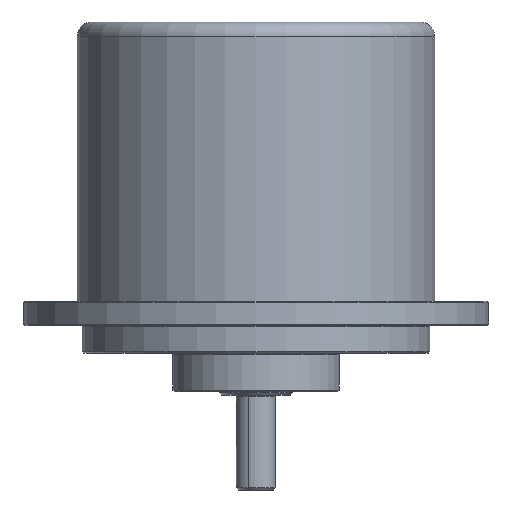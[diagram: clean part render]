
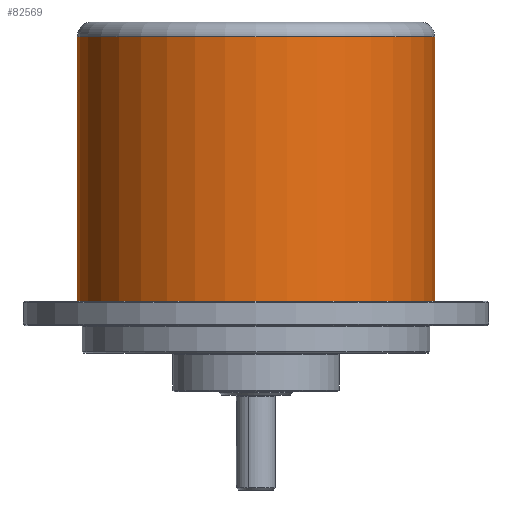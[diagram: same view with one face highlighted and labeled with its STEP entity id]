
A CAD part, front view. The second image highlights one B-rep face of the part: STEP entity #82569.
In plain terms, the highlighted cylindrical face has radius 36.5 mm (diameter 73 mm), a partial arc.
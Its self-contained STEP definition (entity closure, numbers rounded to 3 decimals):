
#682 = VERTEX_POINT ( 'NONE', #74841 ) ;
#802 = VERTEX_POINT ( 'NONE', #2829 ) ;
#2829 = CARTESIAN_POINT ( 'NONE',  ( 36.5, 0., -49.2 ) ) ;
#8440 = ORIENTED_EDGE ( 'NONE', *, *, #8481, .T. ) ;
#8481 = EDGE_CURVE ( 'NONE', #802, #37140, #66348, .T. ) ;
#9431 = CIRCLE ( 'NONE', #24581, 36.5 ) ;
#9968 = AXIS2_PLACEMENT_3D ( 'NONE', #77101, #24926, #77519 ) ;
#11456 = EDGE_CURVE ( 'NONE', #37140, #54189, #79808, .T. ) ;
#12710 = DIRECTION ( 'NONE',  ( 0., 0., 1. ) ) ;
#16994 = CARTESIAN_POINT ( 'NONE',  ( 0., 0., 4.8 ) ) ;
#24581 = AXIS2_PLACEMENT_3D ( 'NONE', #16994, #36034, #70074 ) ;
#24926 = DIRECTION ( 'NONE',  ( 0., 0., 1. ) ) ;
#25234 = FACE_OUTER_BOUND ( 'NONE', #34055, .T. ) ;
#27173 = CARTESIAN_POINT ( 'NONE',  ( -36.5, 0., 4.8 ) ) ;
#28040 = CARTESIAN_POINT ( 'NONE',  ( -36.5, 0., 0. ) ) ;
#29111 = DIRECTION ( 'NONE',  ( 0., 0., 1. ) ) ;
#34055 = EDGE_LOOP ( 'NONE', ( #8440, #46883, #77592, #72927 ) ) ;
#34872 = CARTESIAN_POINT ( 'NONE',  ( -36.5, 0., -49.2 ) ) ;
#35854 = EDGE_CURVE ( 'NONE', #802, #682, #75261, .T. ) ;
#36034 = DIRECTION ( 'NONE',  ( 0., 0., 1. ) ) ;
#37140 = VERTEX_POINT ( 'NONE', #34872 ) ;
#41225 = CARTESIAN_POINT ( 'NONE',  ( 36.5, 0., 0. ) ) ;
#45947 = DIRECTION ( 'NONE',  ( 1., 0., 0. ) ) ;
#46092 = VECTOR ( 'NONE', #29111, 1000. ) ;
#46883 = ORIENTED_EDGE ( 'NONE', *, *, #11456, .T. ) ;
#54189 = VERTEX_POINT ( 'NONE', #27173 ) ;
#55645 = EDGE_CURVE ( 'NONE', #682, #54189, #9431, .T. ) ;
#64001 = VECTOR ( 'NONE', #73759, 1000. ) ;
#66206 = CARTESIAN_POINT ( 'NONE',  ( 0., 0., 0. ) ) ;
#66348 = CIRCLE ( 'NONE', #9968, 36.5 ) ;
#70074 = DIRECTION ( 'NONE',  ( 1., 0., 0. ) ) ;
#71431 = AXIS2_PLACEMENT_3D ( 'NONE', #66206, #12710, #45947 ) ;
#72927 = ORIENTED_EDGE ( 'NONE', *, *, #35854, .F. ) ;
#73759 = DIRECTION ( 'NONE',  ( 0., 0., 1. ) ) ;
#74841 = CARTESIAN_POINT ( 'NONE',  ( 36.5, 0., 4.8 ) ) ;
#75261 = LINE ( 'NONE', #41225, #46092 ) ;
#77101 = CARTESIAN_POINT ( 'NONE',  ( 0., 0., -49.2 ) ) ;
#77519 = DIRECTION ( 'NONE',  ( 1., 0., 0. ) ) ;
#77592 = ORIENTED_EDGE ( 'NONE', *, *, #55645, .F. ) ;
#79132 = CYLINDRICAL_SURFACE ( 'NONE', #71431, 36.5 ) ;
#79808 = LINE ( 'NONE', #28040, #64001 ) ;
#82569 = ADVANCED_FACE ( 'NONE', ( #25234 ), #79132, .T. ) ;
